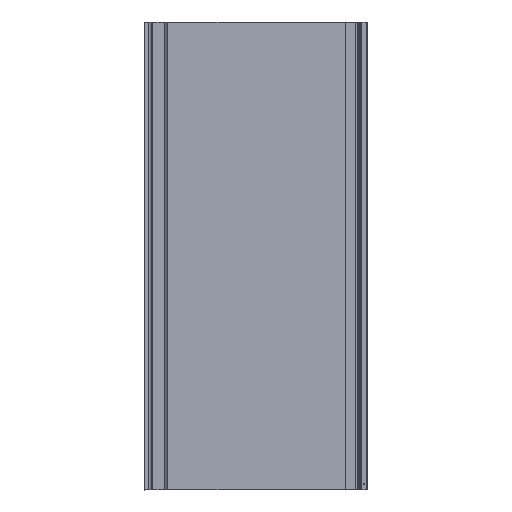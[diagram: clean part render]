
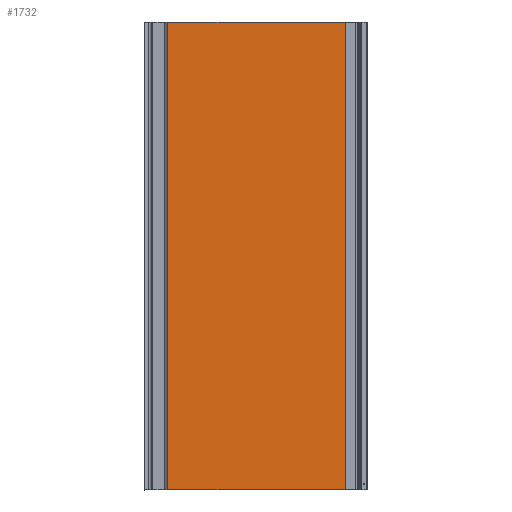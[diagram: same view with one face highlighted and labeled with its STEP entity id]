
A CAD part, front view. The second image highlights one B-rep face of the part: STEP entity #1732.
In plain terms, the highlighted planar face has unit normal (0, -1, 0).
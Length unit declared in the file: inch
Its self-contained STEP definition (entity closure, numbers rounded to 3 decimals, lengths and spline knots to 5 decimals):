
#122 = CARTESIAN_POINT ( 'NONE',  ( -8.01538, 0.16254, 78.74016 ) ) ;
#131 = CARTESIAN_POINT ( 'NONE',  ( -8.01538, 0.16254, 0. ) ) ;
#145 = FACE_OUTER_BOUND ( 'NONE', #1064, .T. ) ;
#249 = VECTOR ( 'NONE', #1808, 39.37008 ) ;
#402 = LINE ( 'NONE', #1761, #525 ) ;
#479 = VECTOR ( 'NONE', #1323, 39.37008 ) ;
#483 = CARTESIAN_POINT ( 'NONE',  ( 7.98846, 0.16254, 41.30666 ) ) ;
#487 = ORIENTED_EDGE ( 'NONE', *, *, #1870, .F. ) ;
#497 = VERTEX_POINT ( 'NONE', #131 ) ;
#525 = VECTOR ( 'NONE', #1010, 39.37008 ) ;
#582 = DIRECTION ( 'NONE',  ( 0., 1., 0. ) ) ;
#653 = VERTEX_POINT ( 'NONE', #1466 ) ;
#697 = ORIENTED_EDGE ( 'NONE', *, *, #724, .T. ) ;
#704 = LINE ( 'NONE', #1662, #249 ) ;
#724 = EDGE_CURVE ( 'NONE', #767, #653, #1252, .T. ) ;
#767 = VERTEX_POINT ( 'NONE', #483 ) ;
#1010 = DIRECTION ( 'NONE',  ( 1., 0., 0. ) ) ;
#1029 = CARTESIAN_POINT ( 'NONE',  ( -8.01538, 0.16254, 78.74016 ) ) ;
#1064 = EDGE_LOOP ( 'NONE', ( #487, #697, #1557, #1203 ) ) ;
#1075 = AXIS2_PLACEMENT_3D ( 'NONE', #1029, #582, #1630 ) ;
#1112 = EDGE_CURVE ( 'NONE', #653, #497, #1649, .T. ) ;
#1124 = VERTEX_POINT ( 'NONE', #1481 ) ;
#1203 = ORIENTED_EDGE ( 'NONE', *, *, #1632, .T. ) ;
#1252 = LINE ( 'NONE', #1536, #1254 ) ;
#1254 = VECTOR ( 'NONE', #1839, 39.37008 ) ;
#1323 = DIRECTION ( 'NONE',  ( 0., 0., -1. ) ) ;
#1466 = CARTESIAN_POINT ( 'NONE',  ( -8.01538, 0.16254, 41.30666 ) ) ;
#1481 = CARTESIAN_POINT ( 'NONE',  ( 7.98846, 0.16254, 0. ) ) ;
#1536 = CARTESIAN_POINT ( 'NONE',  ( -8.01538, 0.16254, 41.30666 ) ) ;
#1557 = ORIENTED_EDGE ( 'NONE', *, *, #1112, .T. ) ;
#1624 = PLANE ( 'NONE',  #1075 ) ;
#1630 = DIRECTION ( 'NONE',  ( -1., 0., 0. ) ) ;
#1632 = EDGE_CURVE ( 'NONE', #497, #1124, #402, .T. ) ;
#1649 = LINE ( 'NONE', #122, #479 ) ;
#1662 = CARTESIAN_POINT ( 'NONE',  ( 7.98846, 0.16254, 78.74016 ) ) ;
#1732 = ADVANCED_FACE ( 'NONE', ( #145 ), #1624, .F. ) ;
#1761 = CARTESIAN_POINT ( 'NONE',  ( -8.01538, 0.16254, 0. ) ) ;
#1808 = DIRECTION ( 'NONE',  ( 0., 0., -1. ) ) ;
#1839 = DIRECTION ( 'NONE',  ( -1., 0., 0. ) ) ;
#1870 = EDGE_CURVE ( 'NONE', #767, #1124, #704, .T. ) ;
